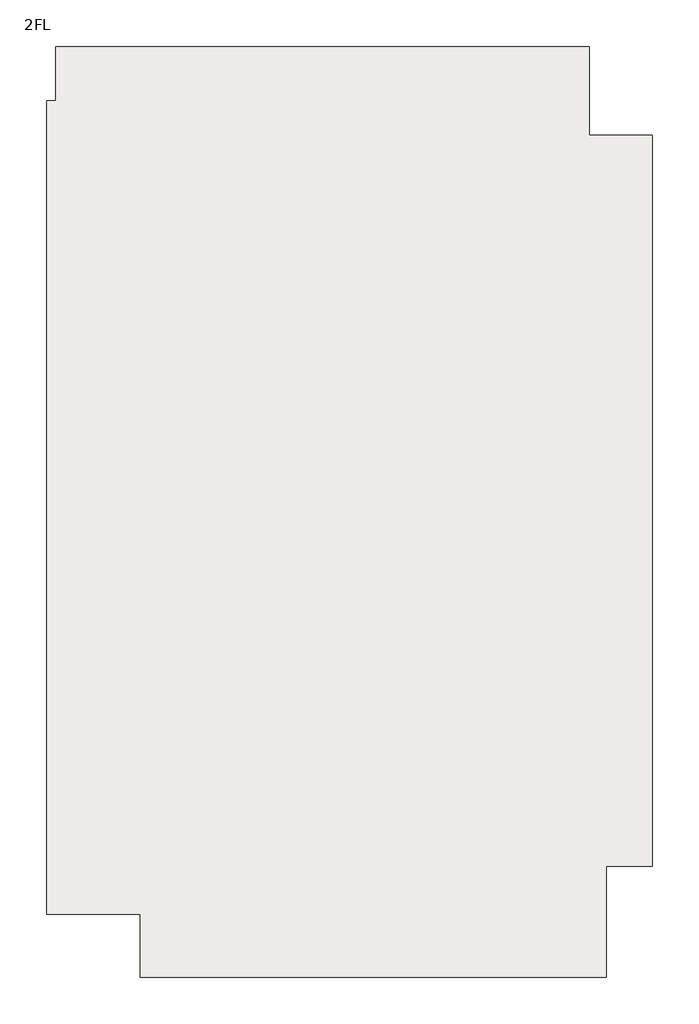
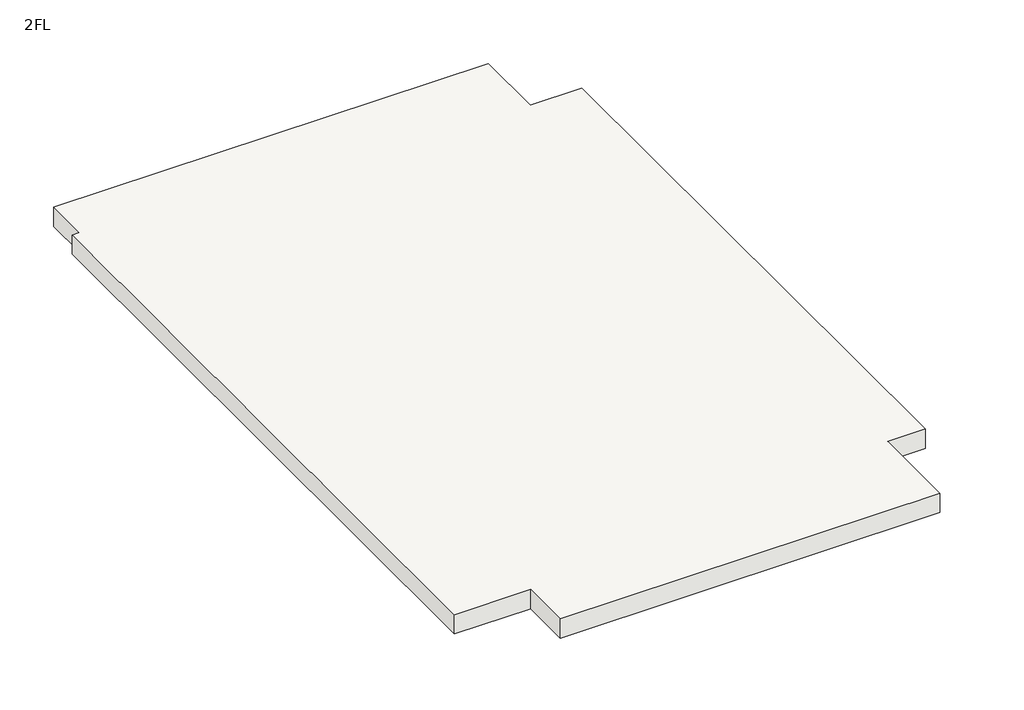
# One storey: 1 slab.
"""IFC4 building model written with IfcOpenShell, lengths in millimetres."""

from ifc_helpers import new_model, si_unit, frame, origin, place, context, project, spatial, polyline, outline, extrude, element, save

model = new_model("IFC4")

# Units and contexts
model_context = context("Model", 3, world=origin())
ifc_project = project(units=[si_unit("LENGTHUNIT", "METRE", prefix="MILLI")], contexts=[model_context])

# Site, building, storey
site = spatial("IfcSite", under=ifc_project)
building = spatial("IfcBuilding", under=site)
storey = spatial("IfcBuildingStorey", under=building, Name="2FL", Elevation=3300.0)

# Slab
placement = place(None, origin())
element("IfcSlab", 1, ObjectType="2FL_15cm", at=placement, inside=storey, context=model_context, shape_type="SweptSolid", body=[
    extrude(outline(polyline([(-736.8833533, 1332.1369238), (2045.4977464, 1332.1369238), (2045.4977464, 868.967972), (2375.4977464, 868.967972), (2375.4977464, -2944.327457), (2135.4977464, -2944.327457), (2135.4977464, -3524.327457), (-296.8833533, -3524.327457), (-296.8833533, -3194.327457), (-784.5022536, -3194.327457), (-784.5022536, 1048.967972), (-736.8833533, 1048.967972), (-736.8833533, 1332.1369238)])), frame((0.0, 0.0, 3170.0), z_axis=(0.0, 0.0, 1.0), x_axis=(1.0, 0.0, 0.0)), (0.0, 0.0, 1.0), 130.0),
])

save(model, "model.ifc")
